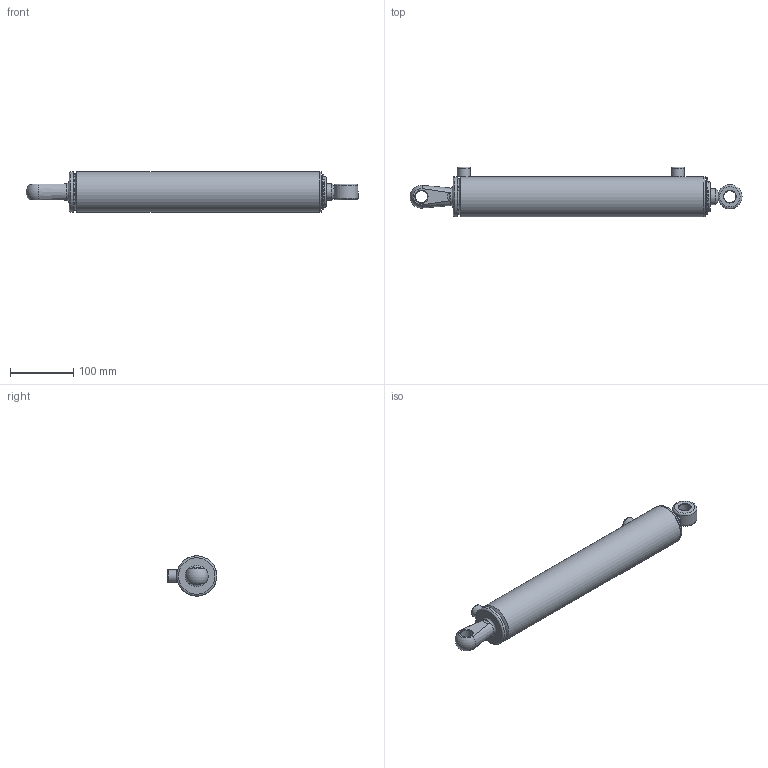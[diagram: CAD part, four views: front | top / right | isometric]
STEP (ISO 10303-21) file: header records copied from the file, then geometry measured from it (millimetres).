
FILE_DESCRIPTION(/* description */ ('Alibre Inc.'),/* implementation_level */ '2;1');
FILE_NAME(/* name */ 'export0',/* time_stamp */ '2016-08-16T09:50:59+12:00',/* author */ (''),/* organization */ (''),/* preprocessor_version */ 'ST-DEVELOPER v14',/* originating_system */ 'Alibre',/* authorisation */ '');
FILE_SCHEMA (('AUTOMOTIVE_DESIGN'));
Length unit declared in the file: centimetre
Bounding box: 523.94 x 78.5 x 63.5 mm (x, y, z)
Volume: 842566.9 mm3; surface area: 235049.8 mm2
Topology: 11 solids, 11 shells, 138 faces, 278 edges, 173 vertices
Faces by surface type: cylinder 51, plane 44, cone 27, torus 13, bspline 2, sphere 1
Full cylindrical faces by diameter (mm): 2.5 x2, 5.588 x1, 6.35 x2, 8.3 x2, 11.9 x2, 17.323 x2, 19.05 x2, 19.101 x1, 20 x2, 25.4 x1, 25.45 x2, 31.77 x1, 31.8 x1, 32.5 x1, 34.93 x2, 38.1 x1, 41.3 x2, 44.91 x1, 45.5 x1, 46.23 x2, 48 x2, 48.3 x1, 49.48 x2, 50.07 x1, 50.69 x2, 50.8 x2, 54 x1, 63.5 x3
Entity records: 3664 total; most frequent: CARTESIAN_POINT 968, DIRECTION 530, ORIENTED_EDGE 330, AXIS2_PLACEMENT_3D 283, FACE_BOUND 258, EDGE_LOOP 256, EDGE_CURVE 165, VERTEX_POINT 153
